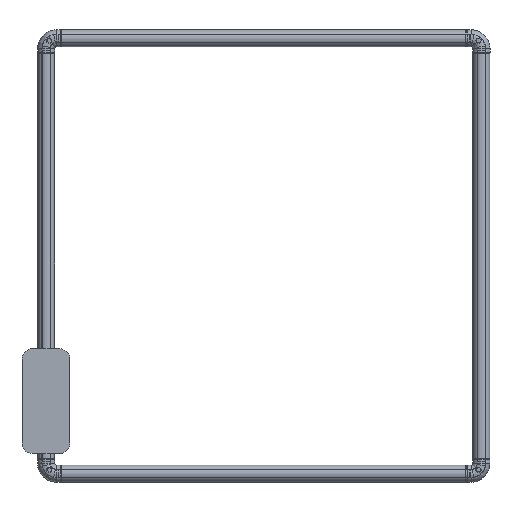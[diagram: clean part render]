
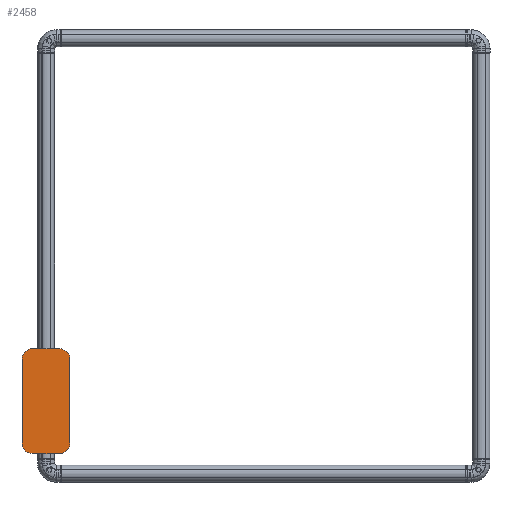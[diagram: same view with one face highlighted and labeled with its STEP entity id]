
A CAD part, top view. The second image highlights one B-rep face of the part: STEP entity #2458.
In plain terms, the highlighted planar face has unit normal (0, 0, 1).
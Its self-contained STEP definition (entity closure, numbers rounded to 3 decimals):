
#1140=B_SPLINE_CURVE_WITH_KNOTS('',1,(#12039,#12040),.UNSPECIFIED.,.F.,
 .F.,(2,2),(0.,78.3),.UNSPECIFIED.);
#1144=B_SPLINE_CURVE_WITH_KNOTS('',1,(#12053,#12054),.UNSPECIFIED.,.F.,
 .F.,(2,2),(0.,244.3),.UNSPECIFIED.);
#1147=B_SPLINE_CURVE_WITH_KNOTS('',1,(#12071,#12072),.UNSPECIFIED.,.F.,
 .F.,(2,2),(0.,78.3),.UNSPECIFIED.);
#1150=B_SPLINE_CURVE_WITH_KNOTS('',1,(#12083,#12084),.UNSPECIFIED.,.F.,
 .F.,(2,2),(0.,244.3),.UNSPECIFIED.);
#2006=PLANE('',#9814);
#2458=ADVANCED_FACE('',(#3021),#2006,.T.);
#3021=FACE_OUTER_BOUND('',#3589,.T.);
#3589=EDGE_LOOP('',(#4293,#4294,#4295,#4296,#4297,#4298,#4299,#4300));
#4293=ORIENTED_EDGE('',*,*,#6858,.F.);
#4294=ORIENTED_EDGE('',*,*,#6855,.F.);
#4295=ORIENTED_EDGE('',*,*,#6852,.F.);
#4296=ORIENTED_EDGE('',*,*,#6849,.F.);
#4297=ORIENTED_EDGE('',*,*,#6868,.F.);
#4298=ORIENTED_EDGE('',*,*,#6865,.F.);
#4299=ORIENTED_EDGE('',*,*,#6863,.F.);
#4300=ORIENTED_EDGE('',*,*,#6860,.F.);
#6849=EDGE_CURVE('',#8887,#8888,#1140,.T.);
#6852=EDGE_CURVE('',#8888,#8889,#8205,.T.);
#6855=EDGE_CURVE('',#8889,#8890,#1144,.T.);
#6858=EDGE_CURVE('',#8890,#8891,#8207,.T.);
#6860=EDGE_CURVE('',#8891,#8892,#1147,.T.);
#6863=EDGE_CURVE('',#8892,#8893,#8209,.T.);
#6865=EDGE_CURVE('',#8893,#8894,#1150,.T.);
#6868=EDGE_CURVE('',#8894,#8887,#8211,.T.);
#8205=(
BOUNDED_CURVE()
B_SPLINE_CURVE(2,(#12046,#12047,#12048),.UNSPECIFIED.,.F.,.F.)
B_SPLINE_CURVE_WITH_KNOTS((3,3),(0.,48.492),.UNSPECIFIED.)
CURVE()
GEOMETRIC_REPRESENTATION_ITEM()
RATIONAL_B_SPLINE_CURVE((1.,0.707,1.))
REPRESENTATION_ITEM('')
);
#8207=(
BOUNDED_CURVE()
B_SPLINE_CURVE(2,(#12062,#12063,#12064,#12065,#12066),.UNSPECIFIED.,.F.,
 .F.)
B_SPLINE_CURVE_WITH_KNOTS((3,2,3),(0.,24.246,48.492),
 .UNSPECIFIED.)
CURVE()
GEOMETRIC_REPRESENTATION_ITEM()
RATIONAL_B_SPLINE_CURVE((1.,0.924,1.,0.924,1.))
REPRESENTATION_ITEM('')
);
#8209=(
BOUNDED_CURVE()
B_SPLINE_CURVE(2,(#12078,#12079,#12080),.UNSPECIFIED.,.F.,.F.)
B_SPLINE_CURVE_WITH_KNOTS((3,3),(0.,48.492),.UNSPECIFIED.)
CURVE()
GEOMETRIC_REPRESENTATION_ITEM()
RATIONAL_B_SPLINE_CURVE((1.,0.707,1.))
REPRESENTATION_ITEM('')
);
#8211=(
BOUNDED_CURVE()
B_SPLINE_CURVE(2,(#12090,#12091,#12092),.UNSPECIFIED.,.F.,.F.)
B_SPLINE_CURVE_WITH_KNOTS((3,3),(0.,48.492),.UNSPECIFIED.)
CURVE()
GEOMETRIC_REPRESENTATION_ITEM()
RATIONAL_B_SPLINE_CURVE((1.,0.707,1.))
REPRESENTATION_ITEM('')
);
#8887=VERTEX_POINT('',#11996);
#8888=VERTEX_POINT('',#11997);
#8889=VERTEX_POINT('',#11998);
#8890=VERTEX_POINT('',#11999);
#8891=VERTEX_POINT('',#12000);
#8892=VERTEX_POINT('',#12001);
#8893=VERTEX_POINT('',#12002);
#8894=VERTEX_POINT('',#12003);
#9814=AXIS2_PLACEMENT_3D('',#11928,#10258,$);
#10258=DIRECTION('',(0.,0.,1.));
#11928=CARTESIAN_POINT('',(-82.939,324.061,1257.102));
#11996=CARTESIAN_POINT('',(-50.667,321.001,1257.102));
#11997=CARTESIAN_POINT('',(27.633,321.001,1257.102));
#11998=CARTESIAN_POINT('',(58.503,290.13,1257.102));
#11999=CARTESIAN_POINT('',(58.503,45.83,1257.102));
#12000=CARTESIAN_POINT('',(27.633,14.959,1257.102));
#12001=CARTESIAN_POINT('',(-50.667,14.959,1257.102));
#12002=CARTESIAN_POINT('',(-81.538,45.83,1257.102));
#12003=CARTESIAN_POINT('',(-81.538,290.13,1257.102));
#12039=CARTESIAN_POINT('',(-50.667,321.001,1257.102));
#12040=CARTESIAN_POINT('',(27.633,321.001,1257.102));
#12046=CARTESIAN_POINT('',(27.633,321.001,1257.102));
#12047=CARTESIAN_POINT('',(58.503,321.001,1257.102));
#12048=CARTESIAN_POINT('',(58.503,290.13,1257.102));
#12053=CARTESIAN_POINT('',(58.503,290.13,1257.102));
#12054=CARTESIAN_POINT('',(58.503,45.83,1257.102));
#12062=CARTESIAN_POINT('',(58.503,45.83,1257.102));
#12063=CARTESIAN_POINT('',(58.503,33.042,1257.102));
#12064=CARTESIAN_POINT('',(49.462,24.001,1257.102));
#12065=CARTESIAN_POINT('',(40.42,14.959,1257.102));
#12066=CARTESIAN_POINT('',(27.633,14.959,1257.102));
#12071=CARTESIAN_POINT('',(27.633,14.959,1257.102));
#12072=CARTESIAN_POINT('',(-50.667,14.959,1257.102));
#12078=CARTESIAN_POINT('',(-50.667,14.959,1257.102));
#12079=CARTESIAN_POINT('',(-81.538,14.959,1257.102));
#12080=CARTESIAN_POINT('',(-81.538,45.83,1257.102));
#12083=CARTESIAN_POINT('',(-81.538,45.83,1257.102));
#12084=CARTESIAN_POINT('',(-81.538,290.13,1257.102));
#12090=CARTESIAN_POINT('',(-81.538,290.13,1257.102));
#12091=CARTESIAN_POINT('',(-81.538,321.001,1257.102));
#12092=CARTESIAN_POINT('',(-50.667,321.001,1257.102));
